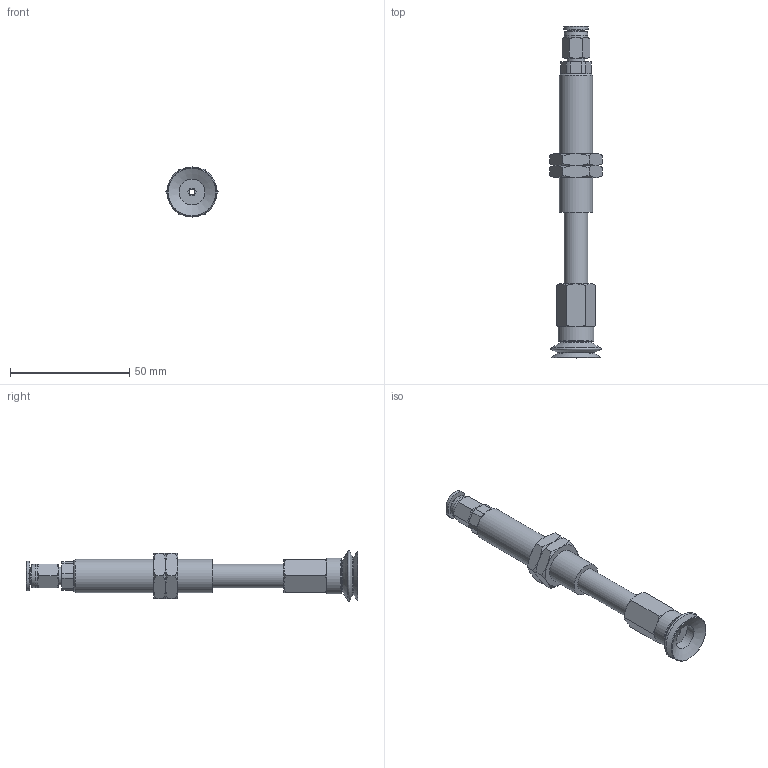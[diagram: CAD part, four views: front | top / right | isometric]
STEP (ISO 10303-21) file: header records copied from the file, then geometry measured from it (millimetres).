
FILE_DESCRIPTION(('STEP AP203'),'1');
FILE_NAME('-O.stp','2025-08-27T07:42:04',(' '),(' '),'Spatial InterOp 3D',' ',' ');
FILE_SCHEMA(('CONFIG_CONTROL_DESIGN'));
Length unit declared in the file: millimetre
Products named in the file (8): BNABPJTS-20-30-※-O; ADAPTER; NAPBTS-20-30--M; Adapter-20-NAPJ; NUT-NAPJ-20-30-s; NAPJTS-20-30-FBODY; BPJG-20-※; PC-C_06-M5
Assembly tree (8 placements, depth 2):
  BNABPJTS-20-30-※-O
    ADAPTER
    NAPBTS-20-30--M
    Adapter-20-NAPJ
    NUT-NAPJ-20-30-s  x2
    NAPJTS-20-30-FBODY
    BPJG-20-※
    PC-C_06-M5
Bounding box: 21.94 x 138.98 x 21 mm (x, y, z)
Volume: 17755.5 mm3; surface area: 14995.3 mm2
Topology: 7 solids, 10 shells, 178 faces, 374 edges, 227 vertices
Faces by surface type: plane 67, cone 65, cylinder 30, torus 9, bspline 4, revolution 3
Full cylindrical faces by diameter (mm): 2.5 x1, 3 x2, 4 x2, 4.134 x2, 4.6 x1, 5 x2, 7 x1, 7.4 x1, 8.2 x1, 10 x3, 10.8 x1, 11 x1, 13.188 x2, 14 x1, 15 x1
Entity records: 4700 total; most frequent: CARTESIAN_POINT 1309, DIRECTION 627, ORIENTED_EDGE 536, AXIS2_PLACEMENT_3D 276, EDGE_CURVE 270, EDGE_LOOP 228, VERTEX_POINT 190, FACE_OUTER_BOUND 125
